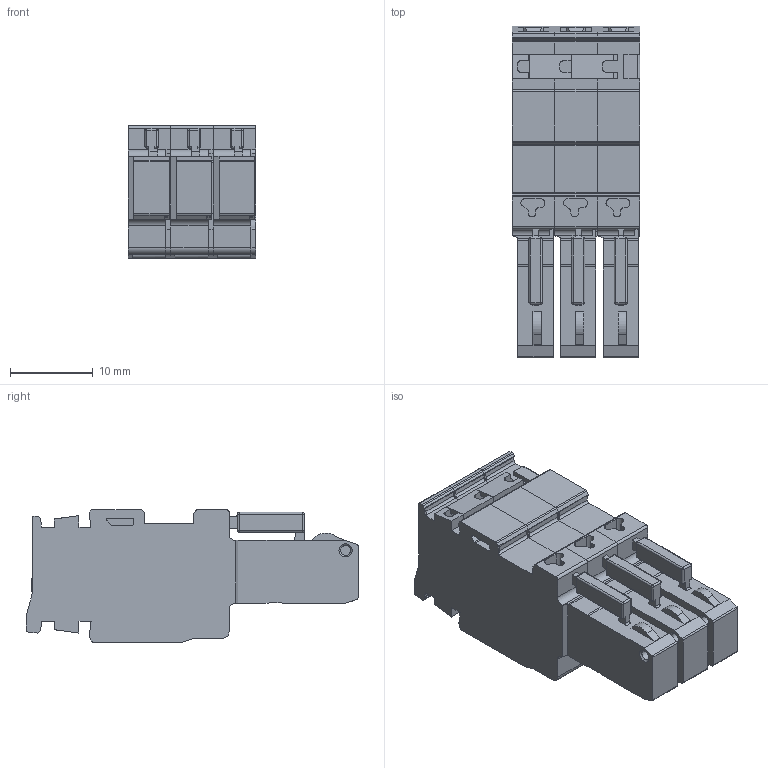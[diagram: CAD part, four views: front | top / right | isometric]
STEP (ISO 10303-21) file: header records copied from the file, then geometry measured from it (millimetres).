
FILE_DESCRIPTION (( 'STEP AP214' ), '1' );
FILE_NAME ('V01.TPA.08.0187.00.00.0.STEP', '2025-09-17T10:05:25', ( '' ), ( '' ), 'SwSTEP 2.0', 'SolidWorks 2022', '' );
FILE_SCHEMA (( 'AUTOMOTIVE_DESIGN' ));
Length unit declared in the file: millimetre
Products named in the file (3): V01.TPA.08.0187.00.00.0; V01.TPA.08.0185.00.00.0_VPR-P-2.5-M-R; V01.TPA.08.0185.00.00.0_VPR-P-2.5-1
Assembly tree (3 placements, depth 2):
  V01.TPA.08.0187.00.00.0
    V01.TPA.08.0185.00.00.0_VPR-P-2.5-1
    V01.TPA.08.0185.00.00.0_VPR-P-2.5-M-R  x2
Bounding box: 15.45 x 40.17 x 16 mm (x, y, z)
Volume: 5904.2 mm3; surface area: 8248.5 mm2
Topology: 3 solids, 3 shells, 1511 faces, 4212 edges, 2737 vertices
Faces by surface type: plane 969, cylinder 467, cone 31, sphere 24, bspline 20
Full cylindrical faces by diameter (mm): 0.6 x8, 1 x3, 1.1 x6, 1.2 x3, 1.3 x2, 1.5 x3, 1.52 x2, 1.532 x6, 1.693 x8, 2 x3
Entity records: 31317 total; most frequent: CARTESIAN_POINT 5817, ORIENTED_EDGE 5240, DIRECTION 5059, EDGE_CURVE 2620, LINE 1929, VECTOR 1929, VERTEX_POINT 1739, AXIS2_PLACEMENT_3D 1565
